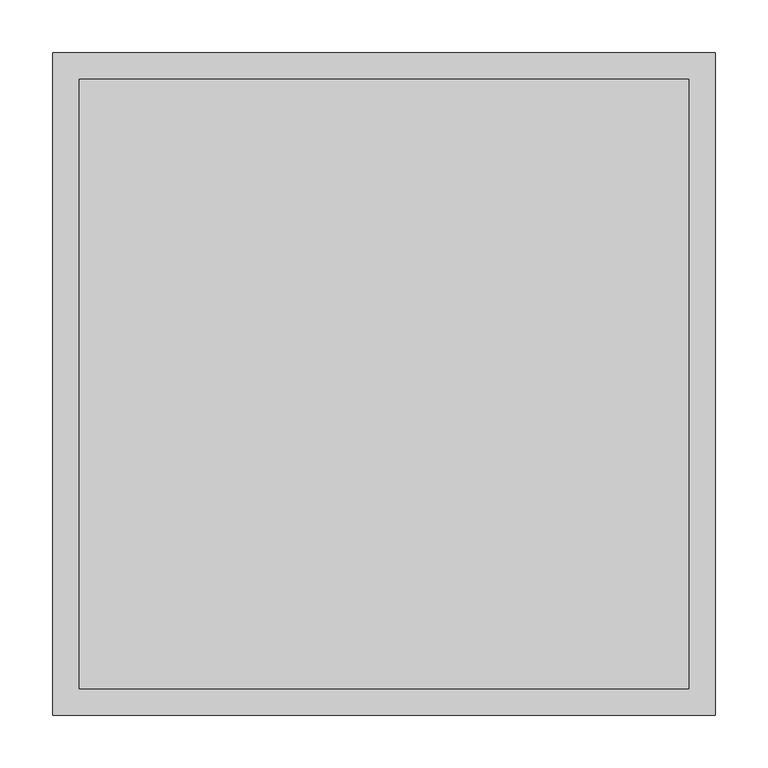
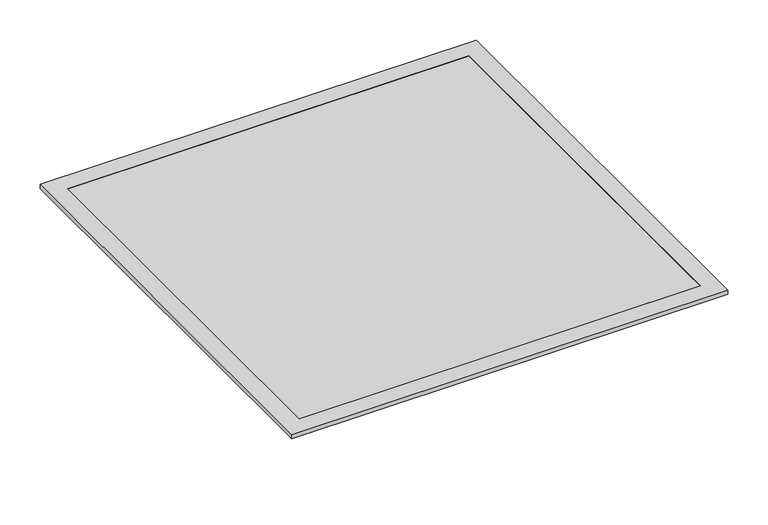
"""IFC4 building model written with IfcOpenShell, lengths in millimetres: air terminal geometry, Titus-Round_Neck_Return_Diffuser-PAR_Surface_Mount : PAR AA-12_24x24 - CRGT."""

from ifc_helpers import new_model, si_unit, point, frame, origin, origin_2d, place, context, project, spatial, polyline, circle_curve, trimmed, segment, composite_curve, outline, extrude, faceted_brep, source, transform, mapped, element, save


def air_terminal_7f3dec8e(model_context):
    return source(origin(), model_context, "Body", "SolidModel", [
        faceted_brep([(-314.325, 314.325, 0.0), (-314.325, 314.325, 6.35), (314.325, 314.325, 6.35), (314.325, 314.325, 0.0), (-288.925, 288.925, 6.35), (-288.925, 288.925, 5.55625), (288.925, 288.925, 5.55625), (288.925, 288.925, 6.35), (314.325, -314.325, 6.35), (314.325, -314.325, 0.0), (288.925, -288.925, 5.55625), (288.925, -288.925, 6.35), (-314.325, -314.325, 6.35), (-314.325, -314.325, 0.0), (-288.925, -288.925, 5.55625), (-288.925, -288.925, 6.35), (-313.53125, 313.53125, 0.0), (-313.53125, -313.53125, 0.0), (313.53125, -313.53125, 0.0), (313.53125, 313.53125, 0.0), (-313.53125, 313.53125, 5.55625), (313.53125, 313.53125, 5.55625), (313.53125, -313.53125, 5.55625), (-313.53125, -313.53125, 5.55625)], [[[0, 1, 2, 3]], [[4, 5, 6, 7]], [[3, 2, 8, 9]], [[7, 6, 10, 11]], [[9, 8, 12, 13]], [[11, 10, 14, 15]], [[1, 12, 8, 2], [7, 11, 15, 4]], [[13, 12, 1, 0]], [[3, 9, 13, 0], [16, 17, 18, 19]], [[15, 14, 5, 4]], [[20, 16, 19, 21]], [[21, 19, 18, 22]], [[22, 18, 17, 23]], [[23, 17, 16, 20]], [[21, 22, 23, 20], [5, 14, 10, 6]]]),
        faceted_brep([(228.6, 228.6, -31.75), (228.6, -228.6, -31.75), (-228.6, -228.6, -31.75), (-228.6, 228.6, -31.75), (-254.0, 254.0, -19.05), (254.0, 254.0, -19.05), (-254.0, -254.0, -19.05), (254.0, -254.0, -19.05), (288.925, 288.925, -19.05), (288.925, -288.925, -19.05), (-288.925, -288.925, -19.05), (-288.925, 288.925, -19.05), (-288.925, 288.925, -1.5875), (-288.925, 288.925, 4.7625), (288.925, 288.925, 4.7625), (288.925, 288.925, -1.5875), (-288.925, -288.925, -1.5875), (-288.925, -288.925, 4.7625), (288.925, -288.925, -1.5875), (288.925, -288.925, 4.7625), (301.625, 301.625, 5.55625), (-301.625, 301.625, 5.55625), (-301.625, -301.625, 5.55625), (301.625, -301.625, 5.55625), (301.625, 301.625, 4.7625), (301.625, -301.625, 4.7625), (-301.625, -301.625, 4.7625), (-301.625, 301.625, 4.7625)], [[[0, 1, 2, 3]], [[0, 3, 4, 5]], [[3, 2, 6, 4]], [[2, 1, 7, 6]], [[1, 0, 5, 7]], [[8, 9, 10, 11], [5, 4, 6, 7]], [[8, 11, 12, 13, 14, 15]], [[11, 10, 16, 17, 13, 12]], [[10, 9, 18, 19, 17, 16]], [[9, 8, 15, 14, 19, 18]], [[20, 21, 22, 23]], [[24, 25, 26, 27], [14, 13, 17, 19]], [[21, 20, 24, 27]], [[22, 21, 27, 26]], [[23, 22, 26, 25]], [[20, 23, 25, 24]]]),
        extrude(outline(polyline([(288.925, 288.925), (288.925, -288.925), (-288.925, -288.925), (-288.925, 288.925), (288.925, 288.925)])), frame((0.0, 0.0, 5.55625), z_axis=(0.0, 0.0, 1.0), x_axis=(1.0, 0.0, 0.0)), (0.0, 0.0, 1.0), 0.79375),
        extrude(outline(composite_curve([segment(trimmed(circle_curve(origin_2d(), 150.8125), [point((-150.8125, 0.0))], [point((150.8125, 0.0))], False, "CARTESIAN"), True, "CONTINUOUS"), segment(trimmed(circle_curve(origin_2d(), 150.8125), [point((150.8125, 0.0))], [point((-150.8125, 0.0))], False, "CARTESIAN"), True, "CONTINUOUS")], self_intersect=False), holes=[composite_curve([segment(trimmed(circle_curve(origin_2d(), 149.225), [point((-149.225, 0.0))], [point((149.225, 0.0))], True, "CARTESIAN"), True, "CONTINUOUS"), segment(trimmed(circle_curve(origin_2d(), 149.225), [point((149.225, 0.0))], [point((-149.225, 0.0))], True, "CARTESIAN"), True, "CONTINUOUS")], self_intersect=False)]), frame((0.0, 0.0, -69.85), z_axis=(0.0, 0.0, 1.0), x_axis=(1.0, 0.0, 0.0)), (0.0, 0.0, 1.0), 38.1),
    ])


if __name__ == "__main__":
    model = new_model("IFC4")
    model_context = context("Model", 3, world=origin())
    ifc_project = project(units=[si_unit("LENGTHUNIT", "METRE", prefix="MILLI")], contexts=[model_context])
    site = spatial("IfcSite", under=ifc_project)
    building = spatial("IfcBuilding", under=site)
    placement = place(None, origin())
    air_terminal_shape = air_terminal_7f3dec8e(model_context)
    element("IfcAirTerminal", 1, ObjectType="Titus-Round_Neck_Return_Diffuser-PAR_Surface_Mount : PAR AA-12_24x24 - CRGT", at=placement, inside=building, context=model_context, shape_type="MappedRepresentation", body=[
        mapped(air_terminal_shape, transform((0.0, 0.0, 0.0), x_axis=(1.0, 0.0, 0.0), y_axis=(0.0, 1.0, 0.0), z_axis=(0.0, 0.0, 1.0))),
    ])
    save(model, "model.ifc")
